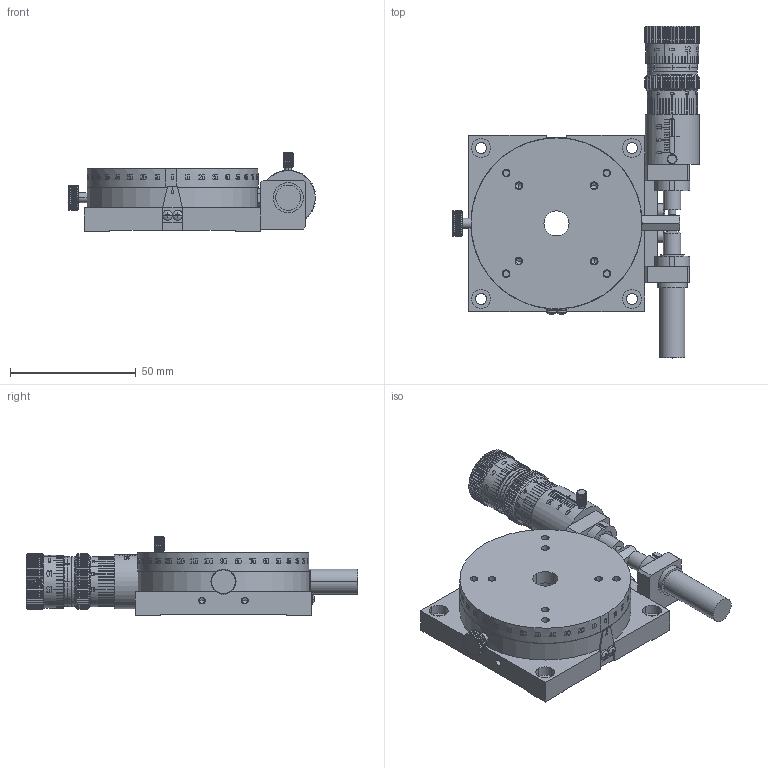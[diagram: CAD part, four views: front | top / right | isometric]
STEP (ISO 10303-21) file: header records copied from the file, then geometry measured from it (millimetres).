
FILE_DESCRIPTION( (''), '2;1');
FILE_NAME ('RM07A-C3.stp','2022-09-12T10:41:36',(''),(''),'spGate 17.5.5','','');
FILE_SCHEMA (('AUTOMOTIVE_DESIGN'));
Length unit declared in the file: millimetre
Products named in the file (3): Assembly; RM07A-C3-prt0; RM07A-C3-prt1
Assembly tree (2 placements, depth 2):
  Assembly
    RM07A-C3-prt0
    RM07A-C3-prt1
Bounding box: 98.5 x 132 x 31.5 mm (x, y, z)
Volume: 67740.1 mm3; surface area: 46100.4 mm2
Topology: 1 solids, 8 shells, 4611 faces, 13038 edges, 8688 vertices
Faces by surface type: plane 3753, cylinder 642, bspline 208, sphere 8
Entity records: 256339 total; most frequent: CARTESIAN_POINT 39060, ORIENTED_EDGE 26600, DIRECTION 20372, COLOUR_RGB 18223, PRESENTATION_STYLE_ASSIGNMENT 18223, STYLED_ITEM 18223, EDGE_CURVE 13610, DRAUGHTING_PRE_DEFINED_CURVE_FONT 13610
